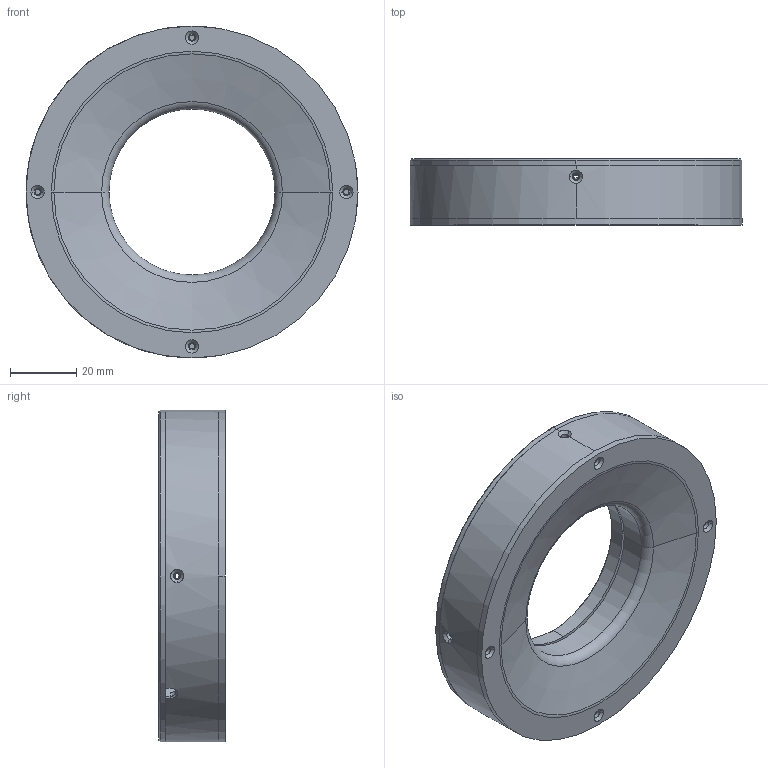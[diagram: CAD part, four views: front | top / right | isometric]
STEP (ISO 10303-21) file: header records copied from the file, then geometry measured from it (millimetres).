
FILE_DESCRIPTION (( 'STEP AP203' ), '1' );
FILE_NAME ('CRT-RL10075-¼òÒ×3DÍ¼.STEP', '2021-12-18T08:54:31', ( 'Admin' ), ( '' ), 'SwSTEP 2.0', 'SolidWorks 2018', '' );
FILE_SCHEMA (( 'CONFIG_CONTROL_DESIGN' ));
Length unit declared in the file: millimetre
Products named in the file (1): CRT-RL10075-潠眢3D芞
Bounding box: 100 x 20 x 100 mm (x, y, z)
Surface area: 31936.5 mm2 (no closed solid volume)
Topology: 0 solids, 4 shells, 77 faces, 226 edges, 152 vertices
Faces by surface type: cylinder 38, cone 24, plane 10, torus 4, bspline 1
Entity records: 3455 total; most frequent: CARTESIAN_POINT 1288, DIRECTION 459, ORIENTED_EDGE 388, EDGE_CURVE 226, AXIS2_PLACEMENT_3D 189, VERTEX_POINT 152, CIRCLE 112, EDGE_LOOP 104
